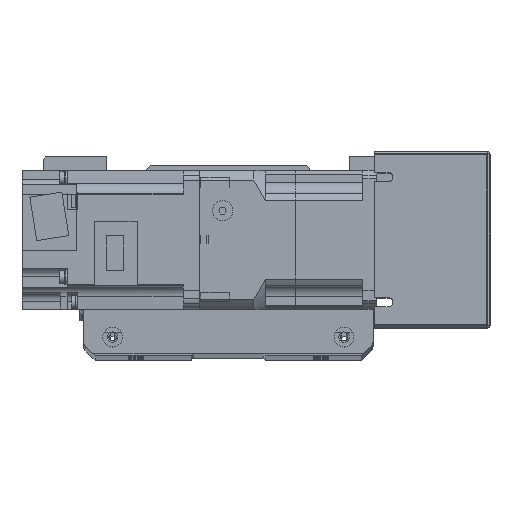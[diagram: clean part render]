
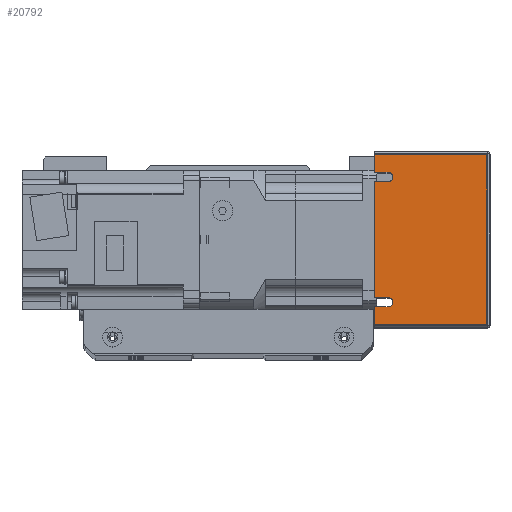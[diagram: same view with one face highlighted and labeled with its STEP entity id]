
A CAD part, top view. The second image highlights one B-rep face of the part: STEP entity #20792.
In plain terms, the highlighted planar face has unit normal (0, 0, 1) as drawn and (-1, 0, 0) by its records, which use the part's own axes.
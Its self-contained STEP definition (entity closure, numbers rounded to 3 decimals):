
#665=PLANE('',#22997);
#1995=LINE('',#34769,#3619);
#2002=LINE('',#34785,#3626);
#2011=LINE('',#34805,#3635);
#2019=LINE('',#34823,#3643);
#2034=LINE('',#34866,#3658);
#2036=LINE('',#34873,#3660);
#2039=LINE('',#34882,#3663);
#2044=LINE('',#34896,#3668);
#2045=LINE('',#34898,#3669);
#2046=LINE('',#34899,#3670);
#3619=VECTOR('',#28308,10.);
#3626=VECTOR('',#28319,10.);
#3635=VECTOR('',#28332,10.);
#3643=VECTOR('',#28344,10.);
#3658=VECTOR('',#28389,10.);
#3660=VECTOR('',#28397,10.);
#3663=VECTOR('',#28406,10.);
#3668=VECTOR('',#28419,10.);
#3669=VECTOR('',#28420,10.);
#3670=VECTOR('',#28421,10.);
#6012=FACE_OUTER_BOUND('',#7632,.T.);
#7632=EDGE_LOOP('',(#18048,#18049,#18050,#18051,#18052,#18053,#18054,#18055,
#18056,#18057,#18058,#18059));
#8778=CIRCLE('',#22976,2.);
#8783=CIRCLE('',#22984,2.);
#10471=VERTEX_POINT('',#34766);
#10472=VERTEX_POINT('',#34768);
#10478=VERTEX_POINT('',#34782);
#10479=VERTEX_POINT('',#34784);
#10487=VERTEX_POINT('',#34802);
#10488=VERTEX_POINT('',#34804);
#10495=VERTEX_POINT('',#34820);
#10496=VERTEX_POINT('',#34822);
#10509=VERTEX_POINT('',#34865);
#10514=VERTEX_POINT('',#34880);
#10519=VERTEX_POINT('',#34895);
#10520=VERTEX_POINT('',#34897);
#13027=EDGE_CURVE('',#10471,#10472,#1995,.T.);
#13034=EDGE_CURVE('',#10478,#10479,#2002,.T.);
#13043=EDGE_CURVE('',#10487,#10488,#2011,.T.);
#13051=EDGE_CURVE('',#10495,#10496,#2019,.T.);
#13058=EDGE_CURVE('',#10479,#10471,#8778,.T.);
#13069=EDGE_CURVE('',#10496,#10487,#8783,.T.);
#13075=EDGE_CURVE('',#10509,#10488,#2034,.T.);
#13079=EDGE_CURVE('',#10495,#10472,#2036,.T.);
#13084=EDGE_CURVE('',#10478,#10514,#2039,.T.);
#13091=EDGE_CURVE('',#10514,#10519,#2044,.T.);
#13092=EDGE_CURVE('',#10519,#10520,#2045,.T.);
#13093=EDGE_CURVE('',#10520,#10509,#2046,.T.);
#18048=ORIENTED_EDGE('',*,*,#13027,.F.);
#18049=ORIENTED_EDGE('',*,*,#13058,.F.);
#18050=ORIENTED_EDGE('',*,*,#13034,.F.);
#18051=ORIENTED_EDGE('',*,*,#13084,.T.);
#18052=ORIENTED_EDGE('',*,*,#13091,.T.);
#18053=ORIENTED_EDGE('',*,*,#13092,.T.);
#18054=ORIENTED_EDGE('',*,*,#13093,.T.);
#18055=ORIENTED_EDGE('',*,*,#13075,.T.);
#18056=ORIENTED_EDGE('',*,*,#13043,.F.);
#18057=ORIENTED_EDGE('',*,*,#13069,.F.);
#18058=ORIENTED_EDGE('',*,*,#13051,.F.);
#18059=ORIENTED_EDGE('',*,*,#13079,.T.);
#20792=ADVANCED_FACE('',(#6012),#665,.F.);
#22976=AXIS2_PLACEMENT_3D('',#34836,#28356,#28357);
#22984=AXIS2_PLACEMENT_3D('',#34854,#28378,#28379);
#22997=AXIS2_PLACEMENT_3D('',#34894,#28417,#28418);
#28308=DIRECTION('',(0.,0.,-1.));
#28319=DIRECTION('',(0.,0.,1.));
#28332=DIRECTION('',(0.,0.,-1.));
#28344=DIRECTION('',(0.,0.,1.));
#28356=DIRECTION('center_axis',(-1.,0.,0.));
#28357=DIRECTION('ref_axis',(0.,0.,-1.));
#28378=DIRECTION('center_axis',(-1.,0.,0.));
#28379=DIRECTION('ref_axis',(0.,0.,-1.));
#28389=DIRECTION('',(0.,-1.,0.));
#28397=DIRECTION('',(0.,-1.,0.));
#28406=DIRECTION('',(0.,-1.,0.));
#28417=DIRECTION('center_axis',(1.,0.,0.));
#28418=DIRECTION('ref_axis',(0.,-1.,0.));
#28419=DIRECTION('',(0.,0.,1.));
#28420=DIRECTION('',(0.,1.,0.));
#28421=DIRECTION('',(0.,0.,-1.));
#34766=CARTESIAN_POINT('',(-91.,-25.,-19.));
#34768=CARTESIAN_POINT('',(-91.,-25.,-25.));
#34769=CARTESIAN_POINT('',(-91.,-25.,-9.5));
#34782=CARTESIAN_POINT('',(-91.,-29.,-25.));
#34784=CARTESIAN_POINT('',(-91.,-29.,-19.));
#34785=CARTESIAN_POINT('',(-91.,-29.,-15.178));
#34802=CARTESIAN_POINT('',(-91.,29.,-19.));
#34804=CARTESIAN_POINT('',(-91.,29.,-25.));
#34805=CARTESIAN_POINT('',(-91.,29.,-9.5));
#34820=CARTESIAN_POINT('',(-91.,25.,-25.));
#34822=CARTESIAN_POINT('',(-91.,25.,-19.));
#34823=CARTESIAN_POINT('',(-91.,25.,-15.178));
#34836=CARTESIAN_POINT('Origin',(-91.,-27.,-19.));
#34854=CARTESIAN_POINT('Origin',(-91.,27.,-19.));
#34865=CARTESIAN_POINT('',(-91.,37.,-25.));
#34866=CARTESIAN_POINT('',(-91.,-38.,-25.));
#34873=CARTESIAN_POINT('',(-91.,-38.,-25.));
#34880=CARTESIAN_POINT('',(-91.,-37.,-25.));
#34882=CARTESIAN_POINT('',(-91.,-38.,-25.));
#34894=CARTESIAN_POINT('Origin',(-91.,38.,0.));
#34895=CARTESIAN_POINT('',(-91.,-37.,24.));
#34896=CARTESIAN_POINT('',(-91.,-37.,0.));
#34897=CARTESIAN_POINT('',(-91.,37.,24.));
#34898=CARTESIAN_POINT('',(-91.,19.,24.));
#34899=CARTESIAN_POINT('',(-91.,37.,0.));
